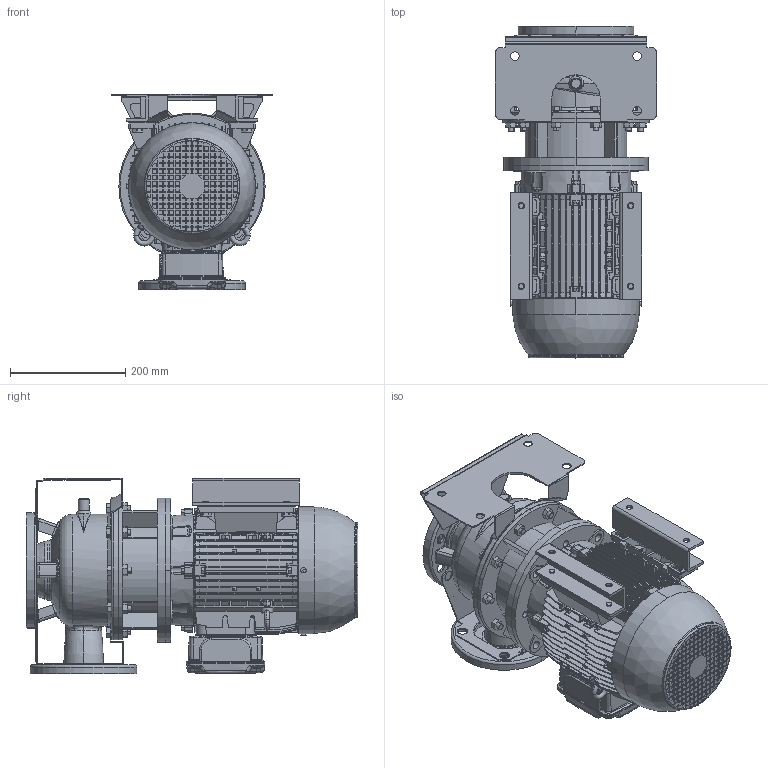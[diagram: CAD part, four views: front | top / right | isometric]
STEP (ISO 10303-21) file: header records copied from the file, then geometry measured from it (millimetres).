
FILE_DESCRIPTION (( 'STEP AP214' ), '1' );
FILE_NAME ('3LS 65-125_4.0_(112M)_W21.STEP', '2026-04-27T05:42:09', ( '' ), ( '' ), 'SwSTEP 2.0', 'SolidWorks 2024', '' );
FILE_SCHEMA (( 'AUTOMOTIVE_DESIGN' ));
Length unit declared in the file: inch
Products named in the file (4): 112M ALIE3_W21T_B35; 65-125_4_ie2_STEP; Bolt & Washer M10 x 20.STEP; 3LS 65-125_4.0_(112M)_W21
Assembly tree (6 placements, depth 2):
  3LS 65-125_4.0_(112M)_W21
    65-125_4_ie2_STEP
    112M ALIE3_W21T_B35
    Bolt & Washer M10 x 20.STEP  x4
Bounding box: 280 x 576.1 x 340 mm (x, y, z)
Volume: 17620737.5 mm3; surface area: 1742540.6 mm2
Topology: 24 solids, 26 shells, 4408 faces, 11794 edges, 7721 vertices
Faces by surface type: plane 2566, cylinder 854, bspline 400, cone 315, torus 248, sphere 25
Entity records: 178558 total; most frequent: CARTESIAN_POINT 74766, ORIENTED_EDGE 23174, DIRECTION 18929, EDGE_CURVE 11587, VERTEX_POINT 7595, VECTOR 6943, LINE 6943, AXIS2_PLACEMENT_3D 5993
